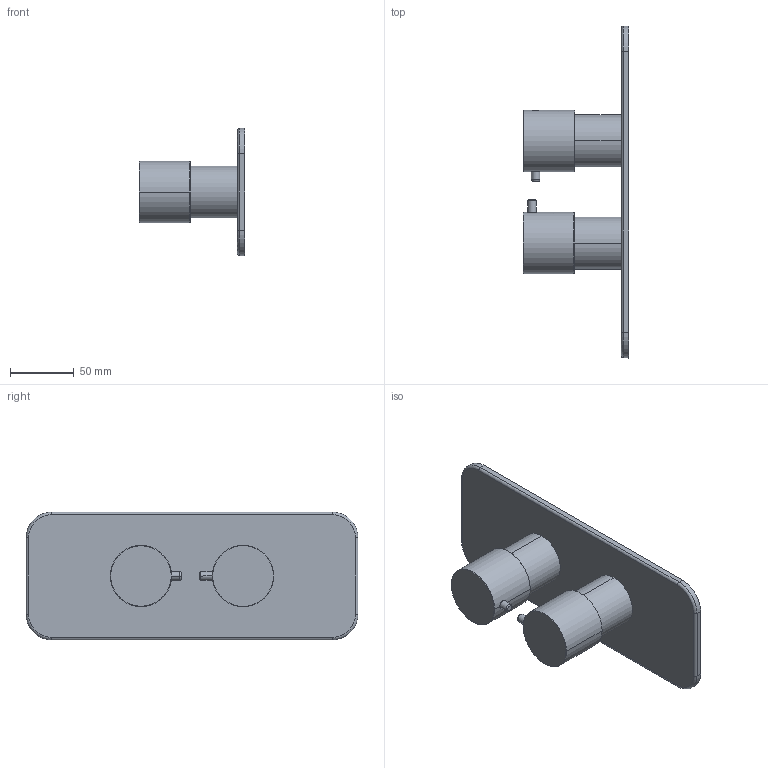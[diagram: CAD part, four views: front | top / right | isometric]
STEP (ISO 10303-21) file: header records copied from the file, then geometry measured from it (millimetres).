
FILE_DESCRIPTION((''),'2;1');
FILE_NAME('F3229X7_FILE_3D','2015-07-02T',('ivanv'),(''),'PRO/ENGINEER BY PARAMETRIC TECHNOLOGY CORPORATION, 2012130','PRO/ENGINEER BY PARAMETRIC TECHNOLOGY CORPORATION, 2012130','');
FILE_SCHEMA(('CONFIG_CONTROL_DESIGN'));
Length unit declared in the file: millimetre
Products named in the file (1): F3229X7_FILE_3D
Bounding box: 83 x 260 x 100 mm (x, y, z)
Volume: 346867.7 mm3; surface area: 88841.7 mm2
Topology: 2 solids, 2 shells, 194 faces, 498 edges, 317 vertices
Faces by surface type: plane 92, cylinder 70, cone 18, torus 14
Entity records: 6739 total; most frequent: CARTESIAN_POINT 2080, ORIENTED_EDGE 992, DIRECTION 940, EDGE_CURVE 496, AXIS2_PLACEMENT_3D 372, VERTEX_POINT 317, EDGE_LOOP 207, VECTOR 196
